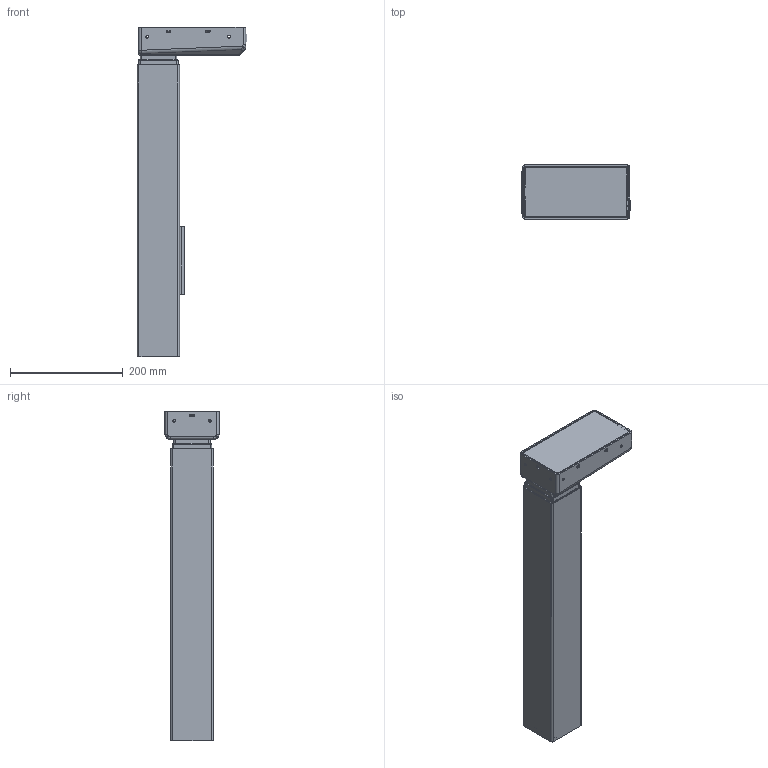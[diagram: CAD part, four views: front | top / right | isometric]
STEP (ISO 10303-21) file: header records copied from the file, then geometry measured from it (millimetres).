
FILE_DESCRIPTION(/* description */ ('Unknown'),/* implementation_level */ '2;1');
FILE_NAME(/* name */ '801.00036_00-Eingefahren',/* time_stamp */ '2025-10-29T15:40:17+01:00',/* author */ ('Unknown'),/* organization */ ('Unknown'),/* preprocessor_version */ 'ST-DEVELOPER v20',/* originating_system */ 'Solid Edge',/* authorisation */ 'Unknown');
FILE_SCHEMA (('AUTOMOTIVE_DESIGN {1 0 10303 214 3 1 1}'));
Length unit declared in the file: millimetre
Products named in the file (7): 801.00036; EA Aussenprofil; EA Mittelprofil; EA Innenprofil; EA Motorengehäuse; EA Deckel; EA Molex
Assembly tree (6 placements, depth 2):
  801.00036
    EA Aussenprofil
    EA Mittelprofil
    EA Innenprofil
    EA Motorengehäuse
    EA Deckel
    EA Molex
Bounding box: 194.3 x 96 x 585 mm (x, y, z)
Volume: 820427.1 mm3; surface area: 1007320.1 mm2
Topology: 8 solids, 8 shells, 937 faces, 2764 edges, 1853 vertices
Faces by surface type: plane 517, cylinder 290, torus 48, cone 42, bspline 32, sphere 8
Full cylindrical faces by diameter (mm): 4.2 x2, 4.5 x4, 4.917 x14, 5.6 x8, 5.7 x8, 5.75 x2, 6 x1, 6.647 x2, 6.8 x2, 7.2 x6
Entity records: 37413 total; most frequent: CARTESIAN_POINT 9574, ORIENTED_EDGE 5456, DIRECTION 4471, EDGE_CURVE 2728, VERTEX_POINT 1837, LINE 1495, VECTOR 1495, AXIS2_PLACEMENT_3D 1488
